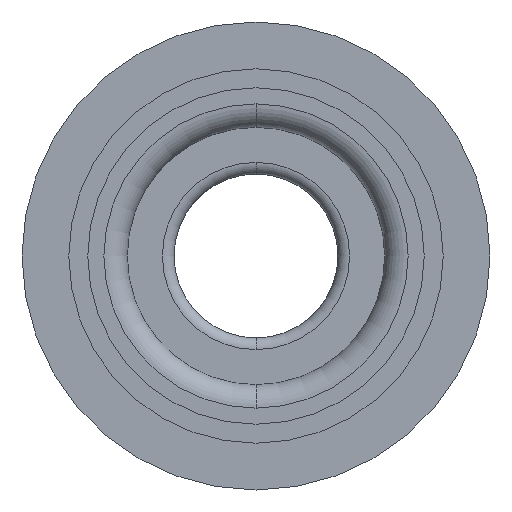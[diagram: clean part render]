
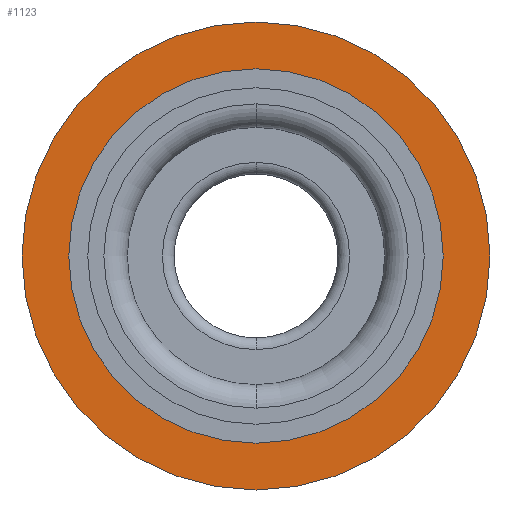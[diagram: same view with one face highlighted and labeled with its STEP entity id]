
A CAD part, front view. The second image highlights one B-rep face of the part: STEP entity #1123.
In plain terms, the highlighted planar face has unit normal (0, -1, 0).
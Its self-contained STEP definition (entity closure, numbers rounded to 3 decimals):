
#39 = AXIS2_PLACEMENT_3D ( 'NONE', #3080, #3579, #52 ) ;
#52 = DIRECTION ( 'NONE',  ( 0., 0., -1. ) ) ;
#276 = PLANE ( 'NONE',  #881 ) ;
#289 = CIRCLE ( 'NONE', #39, 3.5 ) ;
#421 = CARTESIAN_POINT ( 'NONE',  ( -369.933, -8708.459, 10. ) ) ;
#536 = VERTEX_POINT ( 'NONE', #421 ) ;
#648 = CARTESIAN_POINT ( 'NONE',  ( -369.933, -8708.459, 3.5 ) ) ;
#749 = DIRECTION ( 'NONE',  ( 0., 0., -1. ) ) ;
#881 = AXIS2_PLACEMENT_3D ( 'NONE', #1720, #5362, #5868 ) ;
#889 = VERTEX_POINT ( 'NONE', #648 ) ;
#1014 = CARTESIAN_POINT ( 'NONE',  ( -369.933, -8708.459, -10. ) ) ;
#1123 = ADVANCED_FACE ( 'NONE', ( #3000, #4133 ), #276, .T. ) ;
#1420 = EDGE_CURVE ( 'NONE', #536, #3015, #2518, .T. ) ;
#1720 = CARTESIAN_POINT ( 'NONE',  ( 0., -8708.459, 0. ) ) ;
#2109 = DIRECTION ( 'NONE',  ( 0., 0., -1. ) ) ;
#2116 = CARTESIAN_POINT ( 'NONE',  ( -369.933, -8708.459, -3.5 ) ) ;
#2398 = AXIS2_PLACEMENT_3D ( 'NONE', #6030, #6002, #5488 ) ;
#2443 = CIRCLE ( 'NONE', #5761, 3.5 ) ;
#2518 = CIRCLE ( 'NONE', #4249, 10. ) ;
#2582 = DIRECTION ( 'NONE',  ( 0., -1., 0. ) ) ;
#2760 = CARTESIAN_POINT ( 'NONE',  ( -369.933, -8708.459, 0. ) ) ;
#2785 = ORIENTED_EDGE ( 'NONE', *, *, #1420, .T. ) ;
#2795 = EDGE_CURVE ( 'NONE', #3015, #536, #5005, .T. ) ;
#2861 = ORIENTED_EDGE ( 'NONE', *, *, #5131, .F. ) ;
#2909 = ORIENTED_EDGE ( 'NONE', *, *, #2795, .T. ) ;
#3000 = FACE_OUTER_BOUND ( 'NONE', #5458, .T. ) ;
#3015 = VERTEX_POINT ( 'NONE', #1014 ) ;
#3080 = CARTESIAN_POINT ( 'NONE',  ( -369.933, -8708.459, 0. ) ) ;
#3579 = DIRECTION ( 'NONE',  ( 0., -1., 0. ) ) ;
#3700 = EDGE_CURVE ( 'NONE', #5263, #889, #2443, .T. ) ;
#4133 = FACE_BOUND ( 'NONE', #5095, .T. ) ;
#4249 = AXIS2_PLACEMENT_3D ( 'NONE', #2760, #4336, #749 ) ;
#4336 = DIRECTION ( 'NONE',  ( 0., -1., 0. ) ) ;
#4783 = ORIENTED_EDGE ( 'NONE', *, *, #3700, .F. ) ;
#5005 = CIRCLE ( 'NONE', #2398, 10. ) ;
#5095 = EDGE_LOOP ( 'NONE', ( #4783, #2861 ) ) ;
#5131 = EDGE_CURVE ( 'NONE', #889, #5263, #289, .T. ) ;
#5263 = VERTEX_POINT ( 'NONE', #2116 ) ;
#5362 = DIRECTION ( 'NONE',  ( 0., -1., 0. ) ) ;
#5458 = EDGE_LOOP ( 'NONE', ( #2909, #2785 ) ) ;
#5488 = DIRECTION ( 'NONE',  ( 0., 0., -1. ) ) ;
#5761 = AXIS2_PLACEMENT_3D ( 'NONE', #6220, #2582, #2109 ) ;
#5868 = DIRECTION ( 'NONE',  ( 0., 0., -1. ) ) ;
#6002 = DIRECTION ( 'NONE',  ( 0., -1., 0. ) ) ;
#6030 = CARTESIAN_POINT ( 'NONE',  ( -369.933, -8708.459, 0. ) ) ;
#6220 = CARTESIAN_POINT ( 'NONE',  ( -369.933, -8708.459, 0. ) ) ;
